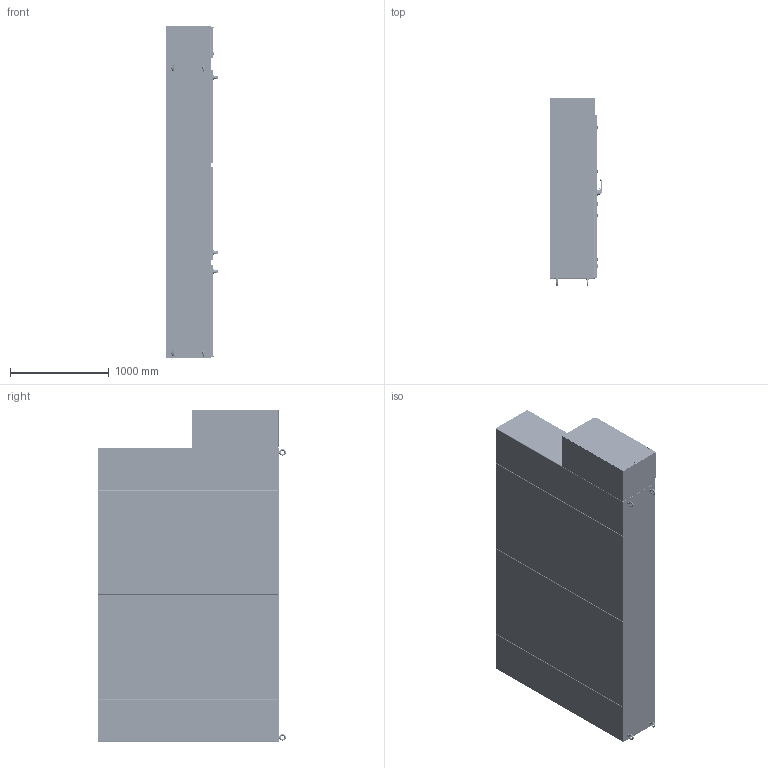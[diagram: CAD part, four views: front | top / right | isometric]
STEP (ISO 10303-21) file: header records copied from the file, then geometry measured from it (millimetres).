
FILE_DESCRIPTION((''),'2;1');
FILE_NAME('MODEL-422_ASM','2025-02-11T15:46:15',('joshi'),('SAGINAW CONTROL & ENGINEERING'),'CREO PARAMETRIC BY PTC INC, 2021284','CREO PARAMETRIC BY PTC INC, 2021284','');
FILE_SCHEMA(('AUTOMOTIVE_DESIGN { 1 0 10303 214 1 1 1 1 }'));
Length unit declared in the file: inch
Products named in the file (201): MODEL-422-TP; MODEL-422-R-SD; MODEL-422-L-SD; MODEL-422-BTM; MODEL-422-R-BCK; MODEL-422-L-BCK; 128003; 100028; 128003_ASM; 127619; 127619_ASM; MODEL-422-RH-CCA-CHNL; MODEL-422-RH-CCA-STIF; 100062; 128004; 128007; 102535; 100057; MODEL-422-RH-CCASSY_ASM; MODEL-422-LH-CCA-CHNL; MODEL-422-LH-CCA-STIF; 127618; 127617; MODEL-422-LH-CCASSY_ASM; MODEL-422-M-DR; 100837; 111267; 100882; 100953_SCREW_MTG; 100953_PADLOCK_CATCH; 100953_SCREW_LARGE; 100953_INSERT_SHAFT; 100953_INSERT_PCH; 100953_GASKET; 100953_O-RING; 100953_BASE; 100953_SPRING; 100953_HANDLE; 100953_CAM_SHAFT; 100953_HANDLE_ASM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
Assembly tree (515 placements, depth 5):
  MODEL-422_ASM
    MODEL-422-TP
    MODEL-422-R-SD
    MODEL-422-L-SD
    MODEL-422-BTM
    MODEL-422-R-BCK
    MODEL-422-L-BCK
    128003_ASM  x2
      128003
      100028
    127619_ASM  x2
      127619
      100028
    MODEL-422-RH-CCASSY_ASM
      MODEL-422-RH-CCA-CHNL
      MODEL-422-RH-CCA-STIF
      100062  x2
      128004  x2
      128007  x2
      102535  x8
      100057  x2
    MODEL-422-LH-CCASSY_ASM
      MODEL-422-LH-CCA-CHNL
      MODEL-422-LH-CCA-STIF
      100062  x2
      127618  x2
      127617  x2
      102535  x8
    MODEL-422-M-DOOR-ASSY_ASM
      MODEL-422-M-DR
      100837  x7
      111267
      100882  x12
      100953_ASM
        100953_SCREW_MTG
        100953_PADLOCK_CATCH
        100953_SCREW_LARGE  x2
        100953_INSERT_SHAFT
        100953_INSERT_PCH
        100953_GASKET
        100953_O-RING
        100953_BASE
        100953_SPRING
        100953_HANDLE_ASM
          100953_HANDLE
          100953_CAM_SHAFT
        100953_CAM_ADAPTER
        100953_EARTH_NUT
        100953_FLANGE_NUT
        100953_CAM_NUT
        100953_CP_INSERT
        100953_SPRING_CAM
        100953_TORSION_SPRING
        100953_SCREW_INSERT
      102237_ASM
        102237
        100030  x2
      MODEL-422-ROD-UPR-MD_ASM
        MODEL-422-ROD-UPR-MD
        128146
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Bounding box: 535.27 x 1903.6 x 3365.5 mm (x, y, z)
Volume: 74886439.4 mm3; surface area: 50451724.3 mm2
Topology: 583 solids, 583 shells, 44635 faces, 113468 edges, 70048 vertices
Faces by surface type: plane 15820, cylinder 11260, bspline 10635, torus 3230, cone 2382, sphere 1218, extrusion 90
Entity records: 804367 total; most frequent: CARTESIAN_POINT 306228, ORIENTED_EDGE 74582, DIRECTION 70268, PRESENTATION_STYLE_ASSIGNMENT 37839, STYLED_ITEM 37472, CURVE_STYLE 37291, EDGE_CURVE 37291, AXIS2_PLACEMENT_3D 26083
